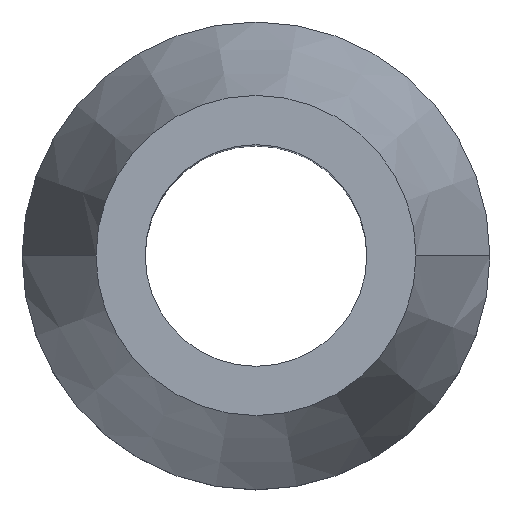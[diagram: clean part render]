
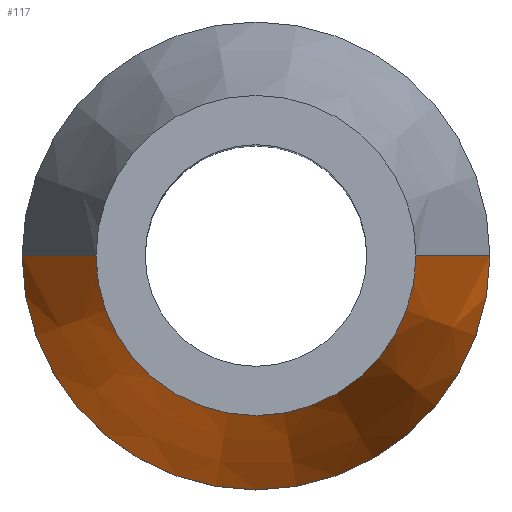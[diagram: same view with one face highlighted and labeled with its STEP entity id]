
A CAD part, top view. The second image highlights one B-rep face of the part: STEP entity #117.
In plain terms, the highlighted conical face has half-angle 16.699 degrees and reference radius 9.5 mm.
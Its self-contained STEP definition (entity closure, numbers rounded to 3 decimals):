
#100=CONICAL_SURFACE('',#294,9.5,16.699);
#117=ADVANCED_FACE('',(#134),#100,.T.);
#134=FACE_OUTER_BOUND('',#146,.T.);
#146=EDGE_LOOP('',(#203,#204,#205,#206));
#160=CIRCLE('',#289,9.5);
#162=CIRCLE('',#293,6.5);
#203=ORIENTED_EDGE('',*,*,#245,.F.);
#204=ORIENTED_EDGE('',*,*,#244,.T.);
#205=ORIENTED_EDGE('',*,*,#247,.T.);
#206=ORIENTED_EDGE('',*,*,#248,.F.);
#221=VERTEX_POINT('',#395);
#222=VERTEX_POINT('',#397);
#223=VERTEX_POINT('',#403);
#224=VERTEX_POINT('',#405);
#244=EDGE_CURVE('',#221,#222,#160,.T.);
#245=EDGE_CURVE('',#221,#223,#257,.T.);
#247=EDGE_CURVE('',#222,#224,#258,.T.);
#248=EDGE_CURVE('',#223,#224,#162,.T.);
#257=LINE('',#402,#267);
#258=LINE('',#406,#268);
#267=VECTOR('',#348,1.);
#268=VECTOR('',#351,1.);
#289=AXIS2_PLACEMENT_3D('',#400,#344,#345);
#293=AXIS2_PLACEMENT_3D('',#408,#354,#355);
#294=AXIS2_PLACEMENT_3D('',#409,#356,#357);
#344=DIRECTION('',(0.,0.,1.));
#345=DIRECTION('',(0.,1.,0.));
#348=DIRECTION('',(0.287,0.,0.958));
#351=DIRECTION('',(-0.287,0.,0.958));
#354=DIRECTION('',(0.,0.,1.));
#355=DIRECTION('',(0.,1.,0.));
#356=DIRECTION('',(0.,0.,-1.));
#357=DIRECTION('',(0.,-1.,0.));
#395=CARTESIAN_POINT('',(-9.5,0.,20.));
#397=CARTESIAN_POINT('',(9.5,0.,20.));
#400=CARTESIAN_POINT('',(0.,0.,20.));
#402=CARTESIAN_POINT('',(-9.5,0.,20.));
#403=CARTESIAN_POINT('',(-6.5,0.,30.));
#405=CARTESIAN_POINT('',(6.5,0.,30.));
#406=CARTESIAN_POINT('',(9.5,0.,20.));
#408=CARTESIAN_POINT('',(0.,0.,30.));
#409=CARTESIAN_POINT('',(0.,0.,20.));
